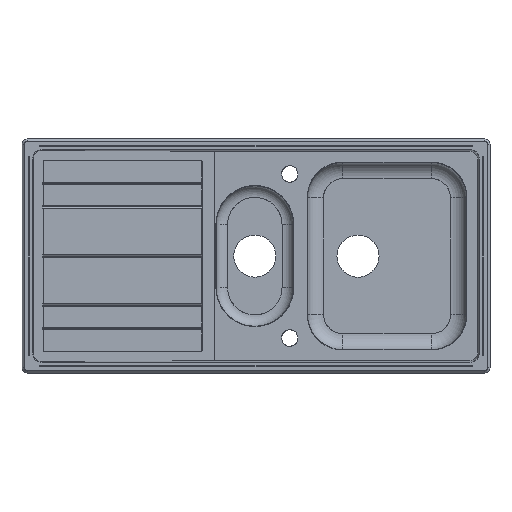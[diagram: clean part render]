
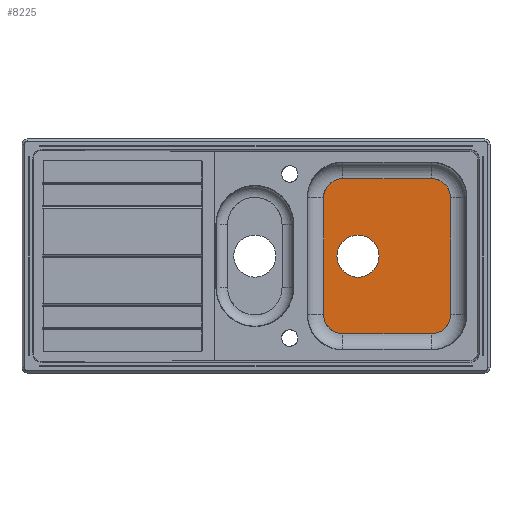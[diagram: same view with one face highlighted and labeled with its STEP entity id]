
A CAD part, top view. The second image highlights one B-rep face of the part: STEP entity #8225.
In plain terms, the highlighted planar face has unit normal (0, 0, 1).
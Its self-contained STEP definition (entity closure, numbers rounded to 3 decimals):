
#8061=CARTESIAN_POINT('Vertex',(218.,-45.,-179.4)) ;
#8064=CARTESIAN_POINT('Axis2P3D Location',(218.,0.,-179.4)) ;
#8068=CARTESIAN_POINT('Vertex',(218.,45.,-179.4)) ;
#8083=CARTESIAN_POINT('Axis2P3D Location',(218.,0.,-179.4)) ;
#8126=CARTESIAN_POINT('Axis2P3D Location',(280.,0.,-179.4)) ;
#8132=CARTESIAN_POINT('Control Point',(144.4,-125.,-179.4)) ;
#8133=CARTESIAN_POINT('Control Point',(144.4,-131.377,-179.4)) ;
#8134=CARTESIAN_POINT('Control Point',(145.652,-137.755,-179.4)) ;
#8135=CARTESIAN_POINT('Control Point',(148.158,-143.804,-179.4)) ;
#8136=CARTESIAN_POINT('Control Point',(155.406,-154.594,-179.4)) ;
#8137=CARTESIAN_POINT('Control Point',(166.196,-161.842,-179.4)) ;
#8138=CARTESIAN_POINT('Control Point',(172.245,-164.348,-179.4)) ;
#8139=CARTESIAN_POINT('Control Point',(178.623,-165.6,-179.4)) ;
#8140=CARTESIAN_POINT('Control Point',(185.,-165.6,-179.4)) ;
#8141=CARTESIAN_POINT('Vertex',(144.4,-125.,-179.4)) ;
#8143=CARTESIAN_POINT('Vertex',(185.,-165.6,-179.4)) ;
#8146=CARTESIAN_POINT('Line Origine',(280.,-165.6,-179.4)) ;
#8150=CARTESIAN_POINT('Vertex',(375.,-165.6,-179.4)) ;
#8154=CARTESIAN_POINT('Control Point',(375.,-165.6,-179.4)) ;
#8155=CARTESIAN_POINT('Control Point',(381.377,-165.6,-179.4)) ;
#8156=CARTESIAN_POINT('Control Point',(387.755,-164.348,-179.4)) ;
#8157=CARTESIAN_POINT('Control Point',(393.804,-161.842,-179.4)) ;
#8158=CARTESIAN_POINT('Control Point',(404.594,-154.594,-179.4)) ;
#8159=CARTESIAN_POINT('Control Point',(411.842,-143.804,-179.4)) ;
#8160=CARTESIAN_POINT('Control Point',(414.348,-137.755,-179.4)) ;
#8161=CARTESIAN_POINT('Control Point',(415.6,-131.377,-179.4)) ;
#8162=CARTESIAN_POINT('Control Point',(415.6,-125.,-179.4)) ;
#8163=CARTESIAN_POINT('Vertex',(415.6,-125.,-179.4)) ;
#8166=CARTESIAN_POINT('Line Origine',(415.6,0.,-179.4)) ;
#8170=CARTESIAN_POINT('Vertex',(415.6,125.,-179.4)) ;
#8174=CARTESIAN_POINT('Control Point',(415.6,125.,-179.4)) ;
#8175=CARTESIAN_POINT('Control Point',(415.6,131.377,-179.4)) ;
#8176=CARTESIAN_POINT('Control Point',(414.348,137.755,-179.4)) ;
#8177=CARTESIAN_POINT('Control Point',(411.842,143.804,-179.4)) ;
#8178=CARTESIAN_POINT('Control Point',(404.594,154.594,-179.4)) ;
#8179=CARTESIAN_POINT('Control Point',(393.804,161.842,-179.4)) ;
#8180=CARTESIAN_POINT('Control Point',(387.755,164.348,-179.4)) ;
#8181=CARTESIAN_POINT('Control Point',(381.377,165.6,-179.4)) ;
#8182=CARTESIAN_POINT('Control Point',(375.,165.6,-179.4)) ;
#8183=CARTESIAN_POINT('Vertex',(375.,165.6,-179.4)) ;
#8186=CARTESIAN_POINT('Line Origine',(280.,165.6,-179.4)) ;
#8190=CARTESIAN_POINT('Vertex',(185.,165.6,-179.4)) ;
#8194=CARTESIAN_POINT('Control Point',(185.,165.6,-179.4)) ;
#8195=CARTESIAN_POINT('Control Point',(178.623,165.6,-179.4)) ;
#8196=CARTESIAN_POINT('Control Point',(172.245,164.348,-179.4)) ;
#8197=CARTESIAN_POINT('Control Point',(166.196,161.842,-179.4)) ;
#8198=CARTESIAN_POINT('Control Point',(155.406,154.594,-179.4)) ;
#8199=CARTESIAN_POINT('Control Point',(148.158,143.804,-179.4)) ;
#8200=CARTESIAN_POINT('Control Point',(145.652,137.755,-179.4)) ;
#8201=CARTESIAN_POINT('Control Point',(144.4,131.377,-179.4)) ;
#8202=CARTESIAN_POINT('Control Point',(144.4,125.,-179.4)) ;
#8203=CARTESIAN_POINT('Vertex',(144.4,125.,-179.4)) ;
#8206=CARTESIAN_POINT('Line Origine',(144.4,0.,-179.4)) ;
#8065=DIRECTION('Axis2P3D Direction',(-0.,0.,1.)) ;
#8084=DIRECTION('Axis2P3D Direction',(-0.,0.,1.)) ;
#8127=DIRECTION('Axis2P3D Direction',(-0.,0.,1.)) ;
#8128=DIRECTION('Axis2P3D XDirection',(0.,-1.,0.)) ;
#8147=DIRECTION('Vector Direction',(1.,0.,0.)) ;
#8167=DIRECTION('Vector Direction',(0.,-1.,0.)) ;
#8187=DIRECTION('Vector Direction',(1.,0.,0.)) ;
#8207=DIRECTION('Vector Direction',(0.,-1.,0.)) ;
#8066=AXIS2_PLACEMENT_3D('Circle Axis2P3D',#8064,#8065,$) ;
#8085=AXIS2_PLACEMENT_3D('Circle Axis2P3D',#8083,#8084,$) ;
#8129=AXIS2_PLACEMENT_3D('Plane Axis2P3D',#8126,#8127,#8128) ;
#8212=ORIENTED_EDGE('',*,*,#8145,.T.) ;
#8213=ORIENTED_EDGE('',*,*,#8152,.F.) ;
#8214=ORIENTED_EDGE('',*,*,#8165,.T.) ;
#8215=ORIENTED_EDGE('',*,*,#8172,.F.) ;
#8216=ORIENTED_EDGE('',*,*,#8185,.T.) ;
#8217=ORIENTED_EDGE('',*,*,#8192,.F.) ;
#8218=ORIENTED_EDGE('',*,*,#8205,.T.) ;
#8219=ORIENTED_EDGE('',*,*,#8210,.F.) ;
#8222=ORIENTED_EDGE('',*,*,#8070,.F.) ;
#8223=ORIENTED_EDGE('',*,*,#8087,.F.) ;
#8224=FACE_BOUND('',#8221,.T.) ;
#8148=VECTOR('Line Direction',#8147,1.) ;
#8168=VECTOR('Line Direction',#8167,1.) ;
#8188=VECTOR('Line Direction',#8187,1.) ;
#8208=VECTOR('Line Direction',#8207,1.) ;
#8225=ADVANCED_FACE('Vasca-CTP',(#8220,#8224),#8130,.T.) ;
#8131=B_SPLINE_CURVE_WITH_KNOTS('',5,(#8132,#8133,#8134,#8135,#8136,#8137,#8138,#8139,#8140),.UNSPECIFIED.,.F.,.U.,(6,3,6),(191.323,223.21,255.097),.UNSPECIFIED.) ;
#8153=B_SPLINE_CURVE_WITH_KNOTS('',5,(#8154,#8155,#8156,#8157,#8158,#8159,#8160,#8161,#8162),.UNSPECIFIED.,.F.,.U.,(6,3,6),(0.,31.887,63.774),.UNSPECIFIED.) ;
#8173=B_SPLINE_CURVE_WITH_KNOTS('',5,(#8174,#8175,#8176,#8177,#8178,#8179,#8180,#8181,#8182),.UNSPECIFIED.,.F.,.U.,(6,3,6),(63.774,95.661,127.549),.UNSPECIFIED.) ;
#8193=B_SPLINE_CURVE_WITH_KNOTS('',5,(#8194,#8195,#8196,#8197,#8198,#8199,#8200,#8201,#8202),.UNSPECIFIED.,.F.,.U.,(6,3,6),(127.549,159.436,191.323),.UNSPECIFIED.) ;
#8067=CIRCLE('generated circle',#8066,45.) ;
#8086=CIRCLE('generated circle',#8085,45.) ;
#8070=EDGE_CURVE('',#8062,#8069,#8067,.T.) ;
#8087=EDGE_CURVE('',#8069,#8062,#8086,.T.) ;
#8145=EDGE_CURVE('',#8142,#8144,#8131,.T.) ;
#8152=EDGE_CURVE('',#8151,#8144,#8149,.F.) ;
#8165=EDGE_CURVE('',#8151,#8164,#8153,.T.) ;
#8172=EDGE_CURVE('',#8171,#8164,#8169,.T.) ;
#8185=EDGE_CURVE('',#8171,#8184,#8173,.T.) ;
#8192=EDGE_CURVE('',#8191,#8184,#8189,.T.) ;
#8205=EDGE_CURVE('',#8191,#8204,#8193,.T.) ;
#8210=EDGE_CURVE('',#8142,#8204,#8209,.F.) ;
#8211=EDGE_LOOP('',(#8212,#8213,#8214,#8215,#8216,#8217,#8218,#8219)) ;
#8221=EDGE_LOOP('',(#8222,#8223)) ;
#8220=FACE_OUTER_BOUND('',#8211,.T.) ;
#8149=LINE('Line',#8146,#8148) ;
#8169=LINE('Line',#8166,#8168) ;
#8189=LINE('Line',#8186,#8188) ;
#8209=LINE('Line',#8206,#8208) ;
#8130=PLANE('',#8129) ;
#8062=VERTEX_POINT('',#8061) ;
#8069=VERTEX_POINT('',#8068) ;
#8142=VERTEX_POINT('',#8141) ;
#8144=VERTEX_POINT('',#8143) ;
#8151=VERTEX_POINT('',#8150) ;
#8164=VERTEX_POINT('',#8163) ;
#8171=VERTEX_POINT('',#8170) ;
#8184=VERTEX_POINT('',#8183) ;
#8191=VERTEX_POINT('',#8190) ;
#8204=VERTEX_POINT('',#8203) ;
